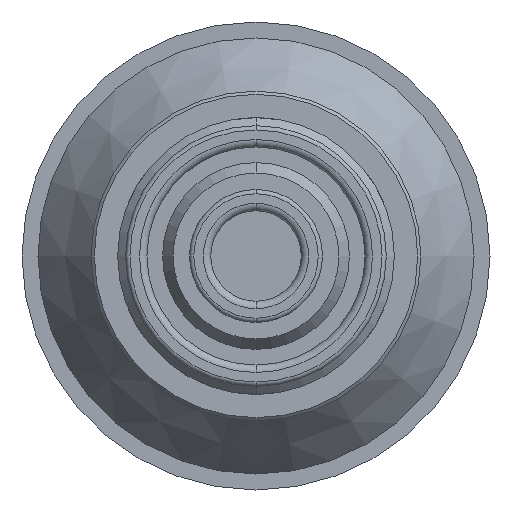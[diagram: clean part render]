
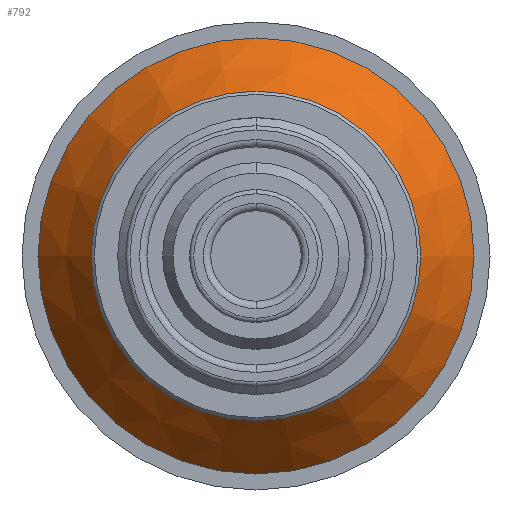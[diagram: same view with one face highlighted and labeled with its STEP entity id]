
A CAD part, front view. The second image highlights one B-rep face of the part: STEP entity #792.
In plain terms, the highlighted conical face has half-angle 36 degrees and reference radius 20.5 mm.
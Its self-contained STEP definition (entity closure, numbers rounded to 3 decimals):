
#209=CONICAL_SURFACE('',#2978,20.5,36.);
#412=FACE_BOUND('',#1157,.T.);
#413=FACE_BOUND('',#1158,.T.);
#792=ADVANCED_FACE('',(#412,#413),#209,.T.);
#1157=EDGE_LOOP('',(#1623));
#1158=EDGE_LOOP('',(#1624));
#1623=ORIENTED_EDGE('',*,*,#2372,.F.);
#1624=ORIENTED_EDGE('',*,*,#2371,.T.);
#2080=VERTEX_POINT('',#4674);
#2081=VERTEX_POINT('',#4677);
#2371=EDGE_CURVE('',#2080,#2080,#2664,.T.);
#2372=EDGE_CURVE('',#2081,#2081,#2665,.T.);
#2664=CIRCLE('',#2975,20.5);
#2665=CIRCLE('',#2977,15.414);
#2975=AXIS2_PLACEMENT_3D('',#4673,#3633,#3634);
#2977=AXIS2_PLACEMENT_3D('',#4676,#3637,#3638);
#2978=AXIS2_PLACEMENT_3D('',#4678,#3639,#3640);
#3633=DIRECTION('',(0.,0.,-1.));
#3634=DIRECTION('',(-1.,0.,0.));
#3637=DIRECTION('',(0.,0.,-1.));
#3638=DIRECTION('',(-1.,0.,0.));
#3639=DIRECTION('',(0.,0.,1.));
#3640=DIRECTION('',(-1.,0.,0.));
#4673=CARTESIAN_POINT('',(0.,0.,12.));
#4674=CARTESIAN_POINT('',(-20.5,0.,12.));
#4676=CARTESIAN_POINT('',(0.,0.,5.));
#4677=CARTESIAN_POINT('',(-15.414,0.,5.));
#4678=CARTESIAN_POINT('',(0.,0.,12.));
